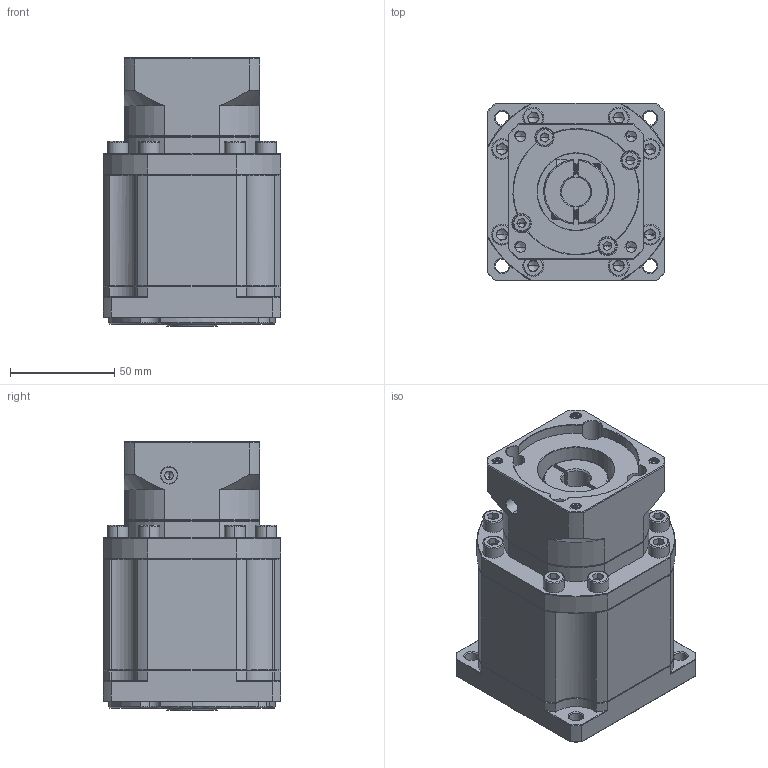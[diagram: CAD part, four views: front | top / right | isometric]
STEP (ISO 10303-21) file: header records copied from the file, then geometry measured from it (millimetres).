
FILE_DESCRIPTION (( 'STEP AP214' ), '1' );
FILE_NAME ('ZB090-K15-L3-P2-14-60-75-M6.step', '2023-08-18T13:42:30', ( '' ), ( '' ), 'SwSTEP 2.0', 'SolidWorks 2016', '' );
FILE_SCHEMA (( 'AUTOMOTIVE_DESIGN' ));
Length unit declared in the file: millimetre
Products named in the file (1): ZB090-K15-L3-P2-14-60-75-M6
Bounding box: 85 x 85 x 128.5 mm (x, y, z)
Volume: 642041.7 mm3; surface area: 81449.4 mm2
Topology: 6 solids, 6 shells, 2315 faces, 6171 edges, 3947 vertices
Faces by surface type: plane 1178, bspline 416, cylinder 378, cone 321, torus 22
Entity records: 119769 total; most frequent: CARTESIAN_POINT 39754, ORIENTED_EDGE 12254, DIRECTION 9845, EDGE_CURVE 6127, VERTEX_POINT 3947, VECTOR 3917, LINE 3917, AXIS2_PLACEMENT_3D 2964
